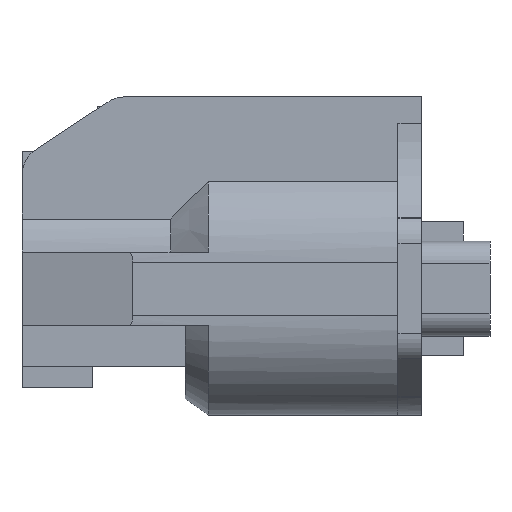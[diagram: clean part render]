
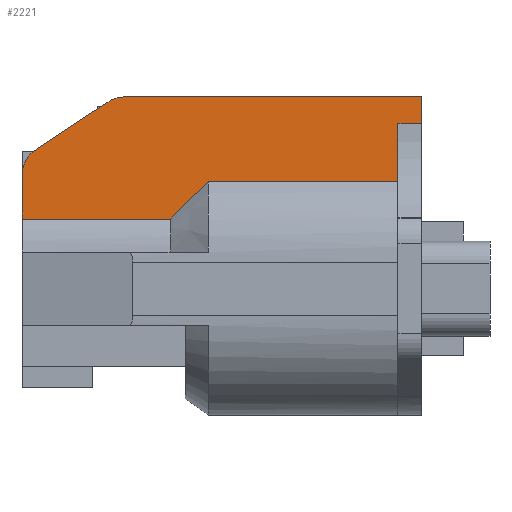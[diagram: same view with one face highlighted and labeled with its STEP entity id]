
A CAD part, front view. The second image highlights one B-rep face of the part: STEP entity #2221.
In plain terms, the highlighted planar face has unit normal (0, -1, 0).
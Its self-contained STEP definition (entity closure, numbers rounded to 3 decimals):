
#2146=AXIS2_PLACEMENT_3D('Plane Axis2P3D',#2143,#2144,#2145) ;
#2191=AXIS2_PLACEMENT_3D('Circle Axis2P3D',#2189,#2190,$) ;
#2205=AXIS2_PLACEMENT_3D('Circle Axis2P3D',#2203,#2204,$) ;
#263=CARTESIAN_POINT('Vertex',(-4.4,-8.,12.3)) ;
#266=CARTESIAN_POINT('Line Origine',(-4.4,-8.,11.432)) ;
#270=CARTESIAN_POINT('Vertex',(-4.4,-8.,10.565)) ;
#466=CARTESIAN_POINT('Vertex',(-23.401,-8.,12.3)) ;
#469=CARTESIAN_POINT('Line Origine',(-13.9,-8.,12.3)) ;
#2123=CARTESIAN_POINT('Line Origine',(-5.15,-8.,10.565)) ;
#2127=CARTESIAN_POINT('Vertex',(-5.9,-8.,10.565)) ;
#2143=CARTESIAN_POINT('Axis2P3D Location',(-3.9,-8.,12.1)) ;
#2148=CARTESIAN_POINT('Line Origine',(-30.,-8.,5.869)) ;
#2152=CARTESIAN_POINT('Vertex',(-30.,-8.,7.272)) ;
#2154=CARTESIAN_POINT('Vertex',(-30.,-8.,4.466)) ;
#2157=CARTESIAN_POINT('Line Origine',(-25.239,-8.,4.466)) ;
#2161=CARTESIAN_POINT('Vertex',(-20.478,-8.,4.466)) ;
#2165=CARTESIAN_POINT('Control Point',(-20.478,-8.,4.466)) ;
#2166=CARTESIAN_POINT('Control Point',(-20.278,-8.,4.704)) ;
#2167=CARTESIAN_POINT('Control Point',(-20.049,-8.,4.96)) ;
#2168=CARTESIAN_POINT('Control Point',(-19.786,-8.,5.237)) ;
#2169=CARTESIAN_POINT('Control Point',(-19.327,-8.,5.695)) ;
#2170=CARTESIAN_POINT('Control Point',(-18.742,-8.,6.236)) ;
#2171=CARTESIAN_POINT('Control Point',(-18.53,-8.,6.428)) ;
#2172=CARTESIAN_POINT('Control Point',(-18.301,-8.,6.632)) ;
#2173=CARTESIAN_POINT('Control Point',(-18.05,-8.,6.85)) ;
#2174=CARTESIAN_POINT('Vertex',(-18.05,-8.,6.85)) ;
#2177=CARTESIAN_POINT('Line Origine',(-11.975,-8.,6.85)) ;
#2181=CARTESIAN_POINT('Vertex',(-5.9,-8.,6.85)) ;
#2184=CARTESIAN_POINT('Line Origine',(-5.9,-8.,8.707)) ;
#2189=CARTESIAN_POINT('Axis2P3D Location',(-23.401,-8.,10.3)) ;
#2193=CARTESIAN_POINT('Vertex',(-24.501,-8.,11.97)) ;
#2196=CARTESIAN_POINT('Line Origine',(-26.8,-8.,10.457)) ;
#2200=CARTESIAN_POINT('Vertex',(-29.1,-8.,8.943)) ;
#2203=CARTESIAN_POINT('Axis2P3D Location',(-28.,-8.,7.272)) ;
#267=DIRECTION('Vector Direction',(0.,0.,-1.)) ;
#470=DIRECTION('Vector Direction',(1.,0.,0.)) ;
#2124=DIRECTION('Vector Direction',(1.,0.,0.)) ;
#2144=DIRECTION('Axis2P3D Direction',(0.,1.,0.)) ;
#2145=DIRECTION('Axis2P3D XDirection',(0.,0.,-1.)) ;
#2149=DIRECTION('Vector Direction',(0.,0.,-1.)) ;
#2158=DIRECTION('Vector Direction',(-1.,0.,0.)) ;
#2178=DIRECTION('Vector Direction',(1.,0.,0.)) ;
#2185=DIRECTION('Vector Direction',(0.,0.,1.)) ;
#2190=DIRECTION('Axis2P3D Direction',(0.,1.,0.)) ;
#2197=DIRECTION('Vector Direction',(-0.835,0.,-0.55)) ;
#2204=DIRECTION('Axis2P3D Direction',(0.,1.,0.)) ;
#268=VECTOR('Line Direction',#267,1.) ;
#471=VECTOR('Line Direction',#470,1.) ;
#2125=VECTOR('Line Direction',#2124,1.) ;
#2150=VECTOR('Line Direction',#2149,1.) ;
#2159=VECTOR('Line Direction',#2158,1.) ;
#2179=VECTOR('Line Direction',#2178,1.) ;
#2186=VECTOR('Line Direction',#2185,1.) ;
#2198=VECTOR('Line Direction',#2197,1.) ;
#2209=ORIENTED_EDGE('',*,*,#2156,.T.) ;
#2210=ORIENTED_EDGE('',*,*,#2163,.F.) ;
#2211=ORIENTED_EDGE('',*,*,#2176,.T.) ;
#2212=ORIENTED_EDGE('',*,*,#2183,.T.) ;
#2213=ORIENTED_EDGE('',*,*,#2188,.T.) ;
#2214=ORIENTED_EDGE('',*,*,#2129,.F.) ;
#2215=ORIENTED_EDGE('',*,*,#272,.F.) ;
#2216=ORIENTED_EDGE('',*,*,#473,.F.) ;
#2217=ORIENTED_EDGE('',*,*,#2195,.F.) ;
#2218=ORIENTED_EDGE('',*,*,#2202,.T.) ;
#2219=ORIENTED_EDGE('',*,*,#2207,.F.) ;
#2221=ADVANCED_FACE('OLD CPA',(#2220),#2147,.F.) ;
#2164=B_SPLINE_CURVE_WITH_KNOTS('',5,(#2165,#2166,#2167,#2168,#2169,#2170,#2171,#2172,#2173),.UNSPECIFIED.,.F.,.U.,(6,3,6),(126.097,146.677,157.04),.UNSPECIFIED.) ;
#2192=CIRCLE('generated circle',#2191,2.) ;
#2206=CIRCLE('generated circle',#2205,2.) ;
#272=EDGE_CURVE('',#264,#271,#269,.T.) ;
#473=EDGE_CURVE('',#467,#264,#472,.T.) ;
#2129=EDGE_CURVE('',#271,#2128,#2126,.F.) ;
#2156=EDGE_CURVE('',#2153,#2155,#2151,.T.) ;
#2163=EDGE_CURVE('',#2162,#2155,#2160,.T.) ;
#2176=EDGE_CURVE('',#2162,#2175,#2164,.T.) ;
#2183=EDGE_CURVE('',#2175,#2182,#2180,.T.) ;
#2188=EDGE_CURVE('',#2182,#2128,#2187,.T.) ;
#2195=EDGE_CURVE('',#2194,#467,#2192,.T.) ;
#2202=EDGE_CURVE('',#2194,#2201,#2199,.T.) ;
#2207=EDGE_CURVE('',#2153,#2201,#2206,.T.) ;
#2208=EDGE_LOOP('',(#2209,#2210,#2211,#2212,#2213,#2214,#2215,#2216,#2217,#2218,#2219)) ;
#2220=FACE_OUTER_BOUND('',#2208,.T.) ;
#269=LINE('Line',#266,#268) ;
#472=LINE('Line',#469,#471) ;
#2126=LINE('Line',#2123,#2125) ;
#2151=LINE('Line',#2148,#2150) ;
#2160=LINE('Line',#2157,#2159) ;
#2180=LINE('Line',#2177,#2179) ;
#2187=LINE('Line',#2184,#2186) ;
#2199=LINE('Line',#2196,#2198) ;
#2147=PLANE('',#2146) ;
#264=VERTEX_POINT('',#263) ;
#271=VERTEX_POINT('',#270) ;
#467=VERTEX_POINT('',#466) ;
#2128=VERTEX_POINT('',#2127) ;
#2153=VERTEX_POINT('',#2152) ;
#2155=VERTEX_POINT('',#2154) ;
#2162=VERTEX_POINT('',#2161) ;
#2175=VERTEX_POINT('',#2174) ;
#2182=VERTEX_POINT('',#2181) ;
#2194=VERTEX_POINT('',#2193) ;
#2201=VERTEX_POINT('',#2200) ;
